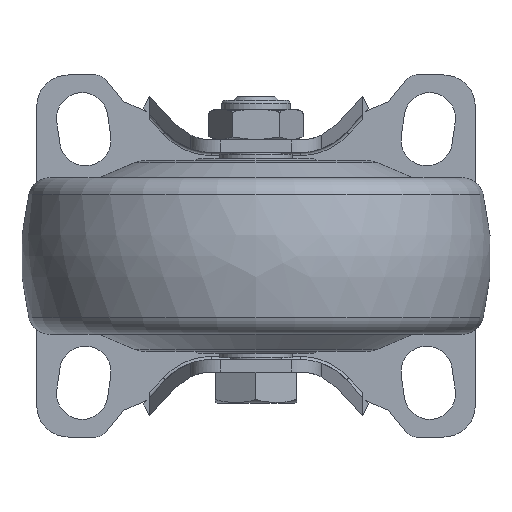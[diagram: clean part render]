
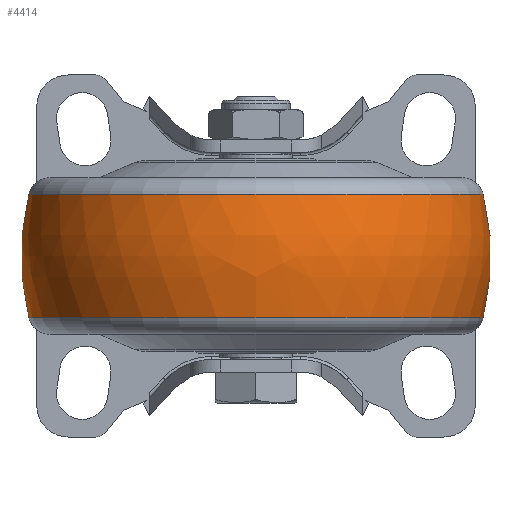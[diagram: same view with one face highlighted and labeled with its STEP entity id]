
A CAD part, front view. The second image highlights one B-rep face of the part: STEP entity #4414.
In plain terms, the highlighted free-form (B-spline) face has degree [3, 3] with [7, 4] control points.
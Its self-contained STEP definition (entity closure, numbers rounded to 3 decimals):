
#3952=CARTESIAN_POINT('',(0.,-2.5,0.));
#3953=DIRECTION('',(0.,0.,1.));
#3954=DIRECTION('',(0.247,0.969,0.));
#3955=AXIS2_PLACEMENT_3D('',#3952,#3953,#3954);
#3957=CARTESIAN_POINT('',(0.,2.5,0.));
#3958=DIRECTION('',(0.,0.,-1.));
#3959=DIRECTION('',(0.247,-0.969,0.));
#3960=AXIS2_PLACEMENT_3D('',#3957,#3958,#3959);
#3962=CARTESIAN_POINT('',(9.863,0.,0.));
#3963=DIRECTION('',(-1.,0.,0.));
#3964=DIRECTION('',(0.,1.,0.));
#3965=AXIS2_PLACEMENT_3D('',#3962,#3963,#3964);
#3977=CARTESIAN_POINT('',(-9.863,0.,0.));
#3978=DIRECTION('',(-1.,0.,0.));
#3979=DIRECTION('',(0.,1.,0.));
#3980=AXIS2_PLACEMENT_3D('',#3977,#3978,#3979);
#4257=CARTESIAN_POINT('',(9.863,36.265,0.));
#4258=CARTESIAN_POINT('',(-9.863,36.265,0.));
#4259=VERTEX_POINT('',#4257);
#4260=VERTEX_POINT('',#4258);
#4297=CARTESIAN_POINT('',(9.863,-36.265,0.));
#4298=CARTESIAN_POINT('',(-9.863,-36.265,0.));
#4299=VERTEX_POINT('',#4297);
#4300=VERTEX_POINT('',#4298);
#4377=CARTESIAN_POINT('',(-10.249,-36.093,
2.271));
#4378=CARTESIAN_POINT('',(-3.494,-37.88,
2.383));
#4379=CARTESIAN_POINT('',(3.494,-37.88,2.383));
#4380=CARTESIAN_POINT('',(10.249,-36.093,2.271));
#4381=CARTESIAN_POINT('',(-10.249,-37.491,
-19.941));
#4382=CARTESIAN_POINT('',(-3.494,-39.347,
-20.928));
#4383=CARTESIAN_POINT('',(3.494,-39.347,
-20.928));
#4384=CARTESIAN_POINT('',(10.249,-37.491,
-19.941));
#4385=CARTESIAN_POINT('',(-10.249,-22.256,
-36.165));
#4386=CARTESIAN_POINT('',(-3.494,-23.358,
-37.955));
#4387=CARTESIAN_POINT('',(3.494,-23.358,
-37.955));
#4388=CARTESIAN_POINT('',(10.249,-22.256,
-36.165));
#4389=CARTESIAN_POINT('',(-10.249,0.,-36.165));
#4390=CARTESIAN_POINT('',(-3.494,0.,-37.955));
#4391=CARTESIAN_POINT('',(3.494,0.,-37.955));
#4392=CARTESIAN_POINT('',(10.249,0.,-36.165));
#4393=CARTESIAN_POINT('',(-10.249,22.256,
-36.165));
#4394=CARTESIAN_POINT('',(-3.494,23.358,
-37.955));
#4395=CARTESIAN_POINT('',(3.494,23.358,-37.955));
#4396=CARTESIAN_POINT('',(10.249,22.256,-36.165));
#4397=CARTESIAN_POINT('',(-10.249,37.491,
-19.941));
#4398=CARTESIAN_POINT('',(-3.494,39.347,
-20.928));
#4399=CARTESIAN_POINT('',(3.494,39.347,-20.928));
#4400=CARTESIAN_POINT('',(10.249,37.491,-19.941));
#4401=CARTESIAN_POINT('',(-10.249,36.093,2.271));
#4402=CARTESIAN_POINT('',(-3.494,37.88,2.383));
#4403=CARTESIAN_POINT('',(3.494,37.88,2.383));
#4404=CARTESIAN_POINT('',(10.249,36.093,2.271));
#4405=(BOUNDED_SURFACE()B_SPLINE_SURFACE(3,3,((#4377,#4378,#4379,#4380),(#4381,
#4382,#4383,#4384),(#4385,#4386,#4387,#4388),(#4389,#4390,#4391,#4392),(#4393,
#4394,#4395,#4396),(#4397,#4398,#4399,#4400),(#4401,#4402,#4403,#4404)),
.UNSPECIFIED.,.F.,.F.,.F.)B_SPLINE_SURFACE_WITH_KNOTS((4,3,4),(4,4),(0.,1.,
2.),(0.,1.),.UNSPECIFIED.)GEOMETRIC_REPRESENTATION_ITEM()RATIONAL_B_SPLINE_SURFACE(((1.207,1.181,1.181,1.207),(
0.953,0.932,0.932,0.953),(
0.953,0.932,0.932,0.953),(
1.207,1.181,1.181,1.207),(
0.953,0.932,0.932,0.953),(
0.953,0.932,0.932,0.953),(
1.207,1.181,1.181,1.207)))REPRESENTATION_ITEM('')SURFACE());
#4406=ORIENTED_EDGE('',*,*,#4366,.T.);
#4408=ORIENTED_EDGE('',*,*,#4407,.T.);
#4409=ORIENTED_EDGE('',*,*,#4370,.F.);
#4411=ORIENTED_EDGE('',*,*,#4410,.F.);
#4412=EDGE_LOOP('',(#4406,#4408,#4409,#4411));
#4413=FACE_OUTER_BOUND('',#4412,.F.);
#3956=CIRCLE('',#3955,40.);
#3961=CIRCLE('',#3960,40.);
#3966=CIRCLE('',#3965,36.265);
#3981=CIRCLE('',#3980,36.265);
#4366=EDGE_CURVE('',#4259,#4260,#3956,.T.);
#4370=EDGE_CURVE('',#4299,#4300,#3961,.T.);
#4407=EDGE_CURVE('',#4260,#4300,#3981,.T.);
#4410=EDGE_CURVE('',#4259,#4299,#3966,.T.);
#4414=ADVANCED_FACE('',(#4413),#4405,.T.);
